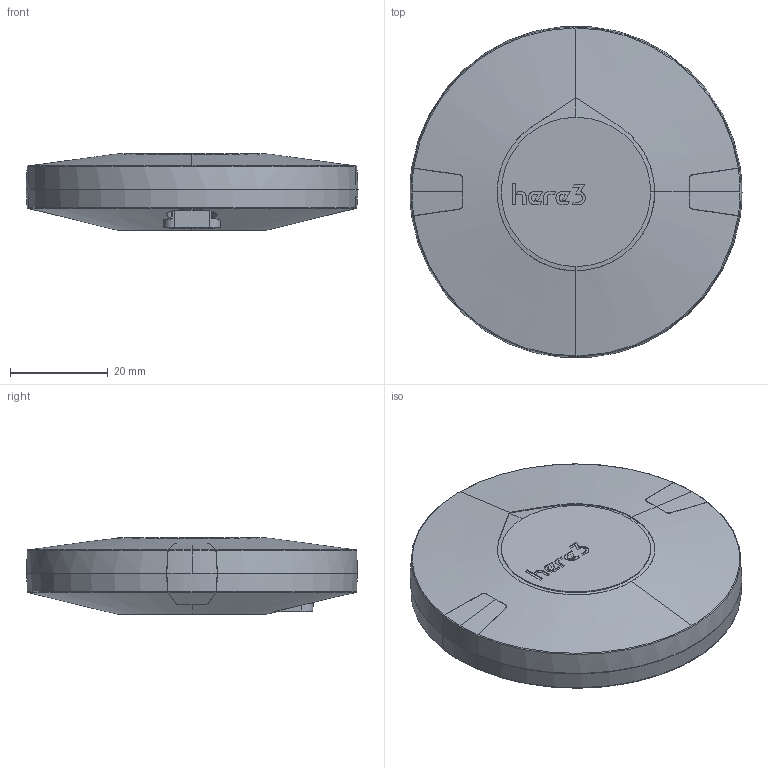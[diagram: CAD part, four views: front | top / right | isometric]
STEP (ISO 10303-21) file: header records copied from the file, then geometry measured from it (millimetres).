
FILE_DESCRIPTION (( 'STEP AP214' ), '1' );
FILE_NAME ('Here3.STEP', '2020-11-13T01:50:41', ( 'User' ), ( 'User' ), 'SwSTEP 2.0', 'SolidWorks 2018', '' );
FILE_SCHEMA (( 'AUTOMOTIVE_DESIGN' ));
Length unit declared in the file: millimetre
Products named in the file (6): NUT_M2-5MM.stp; gps_here3_btm_case20200307; gps_here3_led_lens20200307.stp; gps_here3_tocase_w_nut_20200307.stp; GPS_HERE3_TOCASE.stp; Here3
Assembly tree (6 placements, depth 3):
  Here3
    gps_here3_btm_case20200307
    gps_here3_led_lens20200307.stp  x2
    gps_here3_tocase_w_nut_20200307.stp
      GPS_HERE3_TOCASE.stp
      NUT_M2-5MM.stp
Bounding box: 67.8 x 67.56 x 15.6 mm (x, y, z)
Volume: 17288.6 mm3; surface area: 22880.2 mm2
Topology: 5 solids, 5 shells, 1169 faces, 3230 edges, 2059 vertices
Faces by surface type: plane 477, cone 291, bspline 211, cylinder 126, torus 61, sphere 3
Entity records: 43837 total; most frequent: CARTESIAN_POINT 19402, ORIENTED_EDGE 5788, DIRECTION 4111, EDGE_CURVE 2894, VERTEX_POINT 1849, AXIS2_PLACEMENT_3D 1588, B_SPLINE_CURVE_WITH_KNOTS 1236, EDGE_LOOP 1085
